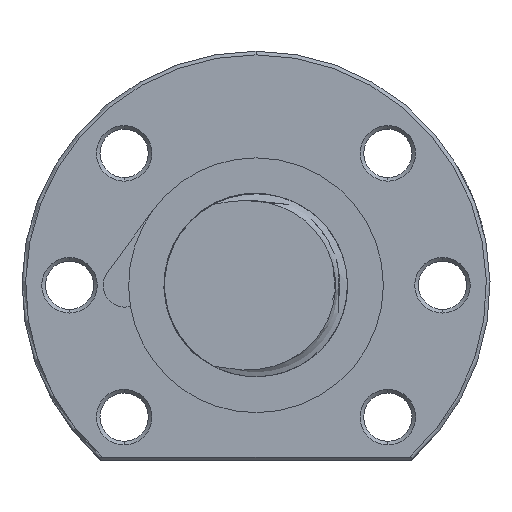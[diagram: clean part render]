
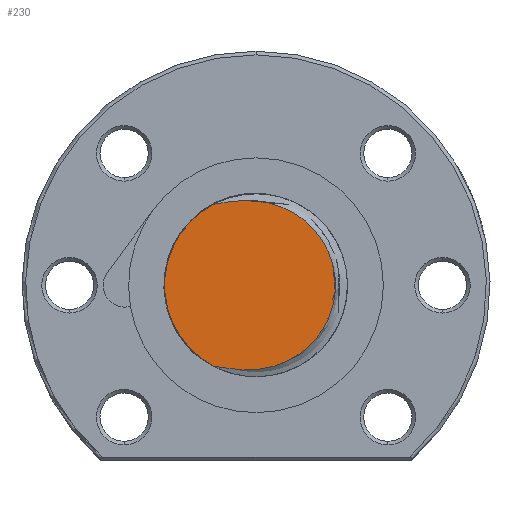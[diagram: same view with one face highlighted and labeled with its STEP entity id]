
A CAD part, left-side view. The second image highlights one B-rep face of the part: STEP entity #230.
In plain terms, the highlighted planar face has unit normal (-1, 0, 0).
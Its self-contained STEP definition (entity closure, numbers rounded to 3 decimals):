
#230 = ADVANCED_FACE ( 'NONE', ( #7520 ), #7519, .F. ) ;
#231 = EDGE_LOOP ( 'NONE', ( #232, #233 ) ) ;
#232 = ORIENTED_EDGE ( 'NONE', *, *, #485, .F. ) ;
#233 = ORIENTED_EDGE ( 'NONE', *, *, #234, .T. ) ;
#234 = EDGE_CURVE ( 'NONE', #505, #499, #7504, .T. ) ;
#485 = EDGE_CURVE ( 'NONE', #505, #499, #12608, .T. ) ;
#499 = VERTEX_POINT ( 'NONE', #12452 ) ;
#505 = VERTEX_POINT ( 'NONE', #12409 ) ;
#7504 = B_SPLINE_CURVE_WITH_KNOTS ( 'NONE', 3,
 ( #7549, #7548, #7547, #7546, #7545, #7544, #7543, #7542, #7541, #7540, #7539, #7538, #7537, #7536, #7535, #7534, #7533, #7532, #7531, #7530, #7529, #7578, #7577, #7576, #7575, #7574, #7573, #7572, #7571, #7570, #7569, #7568, #7567, #7566, #7565, #7564, #7563, #7562, #7561, #7560, #7559, #7558, #7557, #7556, #7555, #7554, #7553, #7552, #7551, #7550, #7595, #7594, #7593, #7592, #7591, #7590, #7589, #7588, #7587, #7586 ),
 .UNSPECIFIED., .F., .F.,
 ( 4, 2, 2, 2, 2, 2, 2, 2, 2, 2, 2, 2, 2, 2, 2, 2, 2, 2, 2, 2, 2, 2, 2, 2, 2, 2, 2, 2, 2, 4 ),
 ( 0.003, 0.003, 0.004, 0.006, 0.007, 0.008, 0.011, 0.014, 0.016, 0.017, 0.019, 0.02, 0.023, 0.025, 0.026, 0.027, 0.029, 0.03, 0.032, 0.035, 0.036, 0.038, 0.039, 0.041, 0.042, 0.044, 0.046, 0.048, 0.049, 0.049 ),
 .UNSPECIFIED. ) ;
#7506 = DIRECTION ( 'NONE',  ( 0., 0., -1. ) ) ;
#7507 = DIRECTION ( 'NONE',  ( 1., 0., 0. ) ) ;
#7508 = CARTESIAN_POINT ( 'NONE',  ( -75., 0., 0. ) ) ;
#7517 = AXIS2_PLACEMENT_3D ( 'NONE', #7508, #7507, #7506 ) ;
#7519 = PLANE ( 'NONE',  #7517 ) ;
#7520 = FACE_OUTER_BOUND ( 'NONE', #231, .T. ) ;
#7529 = CARTESIAN_POINT ( 'NONE',  ( -75., -8.333, -7.169 ) ) ;
#7530 = CARTESIAN_POINT ( 'NONE',  ( -75., -8.024, -7.538 ) ) ;
#7531 = CARTESIAN_POINT ( 'NONE',  ( -75., -7.359, -8.236 ) ) ;
#7532 = CARTESIAN_POINT ( 'NONE',  ( -75., -7.003, -8.566 ) ) ;
#7533 = CARTESIAN_POINT ( 'NONE',  ( -75., -6.245, -9.183 ) ) ;
#7534 = CARTESIAN_POINT ( 'NONE',  ( -75., -5.851, -9.464 ) ) ;
#7535 = CARTESIAN_POINT ( 'NONE',  ( -75., -4.628, -10.231 ) ) ;
#7536 = CARTESIAN_POINT ( 'NONE',  ( -75., -3.758, -10.642 ) ) ;
#7537 = CARTESIAN_POINT ( 'NONE',  ( -75., -1.907, -11.261 ) ) ;
#7538 = CARTESIAN_POINT ( 'NONE',  ( -75., -0.961, -11.453 ) ) ;
#7539 = CARTESIAN_POINT ( 'NONE',  ( -75., 0.477, -11.589 ) ) ;
#7540 = CARTESIAN_POINT ( 'NONE',  ( -75., 0.959, -11.608 ) ) ;
#7541 = CARTESIAN_POINT ( 'NONE',  ( -75., 1.932, -11.599 ) ) ;
#7542 = CARTESIAN_POINT ( 'NONE',  ( -75., 2.419, -11.569 ) ) ;
#7543 = CARTESIAN_POINT ( 'NONE',  ( -75., 3.385, -11.468 ) ) ;
#7544 = CARTESIAN_POINT ( 'NONE',  ( -75., 3.865, -11.396 ) ) ;
#7545 = CARTESIAN_POINT ( 'NONE',  ( -75., 4.583, -11.271 ) ) ;
#7546 = CARTESIAN_POINT ( 'NONE',  ( -75., 4.822, -11.227 ) ) ;
#7547 = CARTESIAN_POINT ( 'NONE',  ( -75., 5.301, -11.143 ) ) ;
#7548 = CARTESIAN_POINT ( 'NONE',  ( -75., 5.54, -11.101 ) ) ;
#7549 = CARTESIAN_POINT ( 'NONE',  ( -75., 5.782, -11.082 ) ) ;
#7550 = CARTESIAN_POINT ( 'NONE',  ( -75., -0.945, 11.431 ) ) ;
#7551 = CARTESIAN_POINT ( 'NONE',  ( -75., -1.891, 11.234 ) ) ;
#7552 = CARTESIAN_POINT ( 'NONE',  ( -75., -2.357, 11.108 ) ) ;
#7553 = CARTESIAN_POINT ( 'NONE',  ( -75., -3.274, 10.804 ) ) ;
#7554 = CARTESIAN_POINT ( 'NONE',  ( -75., -3.727, 10.624 ) ) ;
#7555 = CARTESIAN_POINT ( 'NONE',  ( -75., -4.609, 10.209 ) ) ;
#7556 = CARTESIAN_POINT ( 'NONE',  ( -75., -5.034, 9.978 ) ) ;
#7557 = CARTESIAN_POINT ( 'NONE',  ( -75., -5.851, 9.465 ) ) ;
#7558 = CARTESIAN_POINT ( 'NONE',  ( -75., -6.243, 9.184 ) ) ;
#7559 = CARTESIAN_POINT ( 'NONE',  ( -75., -6.994, 8.572 ) ) ;
#7560 = CARTESIAN_POINT ( 'NONE',  ( -75., -7.354, 8.238 ) ) ;
#7561 = CARTESIAN_POINT ( 'NONE',  ( -75., -8.359, 7.186 ) ) ;
#7562 = CARTESIAN_POINT ( 'NONE',  ( -75., -8.934, 6.413 ) ) ;
#7563 = CARTESIAN_POINT ( 'NONE',  ( -75., -9.648, 5.138 ) ) ;
#7564 = CARTESIAN_POINT ( 'NONE',  ( -75., -9.859, 4.697 ) ) ;
#7565 = CARTESIAN_POINT ( 'NONE',  ( -75., -10.22, 3.8 ) ) ;
#7566 = CARTESIAN_POINT ( 'NONE',  ( -75., -10.371, 3.342 ) ) ;
#7567 = CARTESIAN_POINT ( 'NONE',  ( -75., -10.616, 2.408 ) ) ;
#7568 = CARTESIAN_POINT ( 'NONE',  ( -75., -10.71, 1.928 ) ) ;
#7569 = CARTESIAN_POINT ( 'NONE',  ( -75., -10.835, 0.962 ) ) ;
#7570 = CARTESIAN_POINT ( 'NONE',  ( -75., -10.866, 0.479 ) ) ;
#7571 = CARTESIAN_POINT ( 'NONE',  ( -75., -10.865, -0.485 ) ) ;
#7572 = CARTESIAN_POINT ( 'NONE',  ( -75., -10.834, -0.966 ) ) ;
#7573 = CARTESIAN_POINT ( 'NONE',  ( -75., -10.709, -1.928 ) ) ;
#7574 = CARTESIAN_POINT ( 'NONE',  ( -75., -10.616, -2.41 ) ) ;
#7575 = CARTESIAN_POINT ( 'NONE',  ( -75., -10.248, -3.815 ) ) ;
#7576 = CARTESIAN_POINT ( 'NONE',  ( -75., -9.888, -4.709 ) ) ;
#7577 = CARTESIAN_POINT ( 'NONE',  ( -75., -9.173, -5.984 ) ) ;
#7578 = CARTESIAN_POINT ( 'NONE',  ( -75., -8.908, -6.394 ) ) ;
#7586 = CARTESIAN_POINT ( 'NONE',  ( -75., 5.78, 11.084 ) ) ;
#7587 = CARTESIAN_POINT ( 'NONE',  ( -75., 5.538, 11.102 ) ) ;
#7588 = CARTESIAN_POINT ( 'NONE',  ( -75., 5.3, 11.145 ) ) ;
#7589 = CARTESIAN_POINT ( 'NONE',  ( -75., 4.823, 11.228 ) ) ;
#7590 = CARTESIAN_POINT ( 'NONE',  ( -75., 4.585, 11.271 ) ) ;
#7591 = CARTESIAN_POINT ( 'NONE',  ( -75., 3.87, 11.394 ) ) ;
#7592 = CARTESIAN_POINT ( 'NONE',  ( -75., 3.392, 11.466 ) ) ;
#7593 = CARTESIAN_POINT ( 'NONE',  ( -75., 1.955, 11.617 ) ) ;
#7594 = CARTESIAN_POINT ( 'NONE',  ( -75., 0.992, 11.636 ) ) ;
#7595 = CARTESIAN_POINT ( 'NONE',  ( -75., -0.463, 11.502 ) ) ;
#12409 = CARTESIAN_POINT ( 'NONE',  ( -75., 5.782, -11.082 ) ) ;
#12452 = CARTESIAN_POINT ( 'NONE',  ( -75., 5.78, 11.084 ) ) ;
#12601 = DIRECTION ( 'NONE',  ( 0., 1., 0. ) ) ;
#12603 = DIRECTION ( 'NONE',  ( 1., 0., 0. ) ) ;
#12605 = CARTESIAN_POINT ( 'NONE',  ( -75., 0., 0. ) ) ;
#12607 = AXIS2_PLACEMENT_3D ( 'NONE', #12605, #12603, #12601 ) ;
#12608 = CIRCLE ( 'NONE', #12607, 12.5 ) ;
